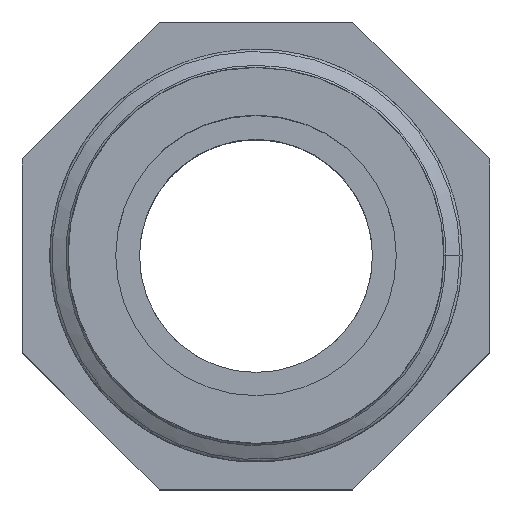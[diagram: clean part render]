
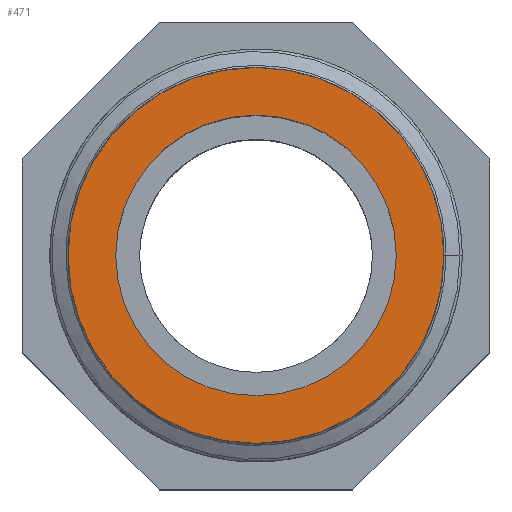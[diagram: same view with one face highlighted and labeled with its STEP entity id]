
A CAD part, top view. The second image highlights one B-rep face of the part: STEP entity #471.
In plain terms, the highlighted planar face has unit normal (0, 0, 1).
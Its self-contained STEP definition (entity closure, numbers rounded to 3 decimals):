
#18=FACE_BOUND('',#159,.T.);
#39=PLANE('',#501);
#126=FACE_OUTER_BOUND('',#158,.T.);
#158=EDGE_LOOP('',(#422));
#159=EDGE_LOOP('',(#423));
#171=CIRCLE('',#483,12.059);
#177=CIRCLE('',#502,9.);
#208=VERTEX_POINT('',#2034);
#242=VERTEX_POINT('',#7599);
#262=EDGE_CURVE('',#208,#208,#171,.T.);
#306=EDGE_CURVE('',#242,#242,#177,.T.);
#422=ORIENTED_EDGE('',*,*,#262,.T.);
#423=ORIENTED_EDGE('',*,*,#306,.F.);
#471=ADVANCED_FACE('',(#126,#18),#39,.T.);
#483=AXIS2_PLACEMENT_3D('',#3864,#524,#525);
#501=AXIS2_PLACEMENT_3D('',#7598,#587,#588);
#502=AXIS2_PLACEMENT_3D('',#7600,#589,#590);
#524=DIRECTION('center_axis',(0.,0.,1.));
#525=DIRECTION('ref_axis',(1.,0.,0.));
#587=DIRECTION('center_axis',(0.,0.,1.));
#588=DIRECTION('ref_axis',(1.,0.,0.));
#589=DIRECTION('center_axis',(0.,0.,1.));
#590=DIRECTION('ref_axis',(1.,0.,0.));
#2034=CARTESIAN_POINT('',(12.059,0.,37.));
#3864=CARTESIAN_POINT('Origin',(0.,0.,37.));
#7598=CARTESIAN_POINT('Origin',(9.,0.,37.));
#7599=CARTESIAN_POINT('',(9.,0.,37.));
#7600=CARTESIAN_POINT('Origin',(0.,0.,37.));
